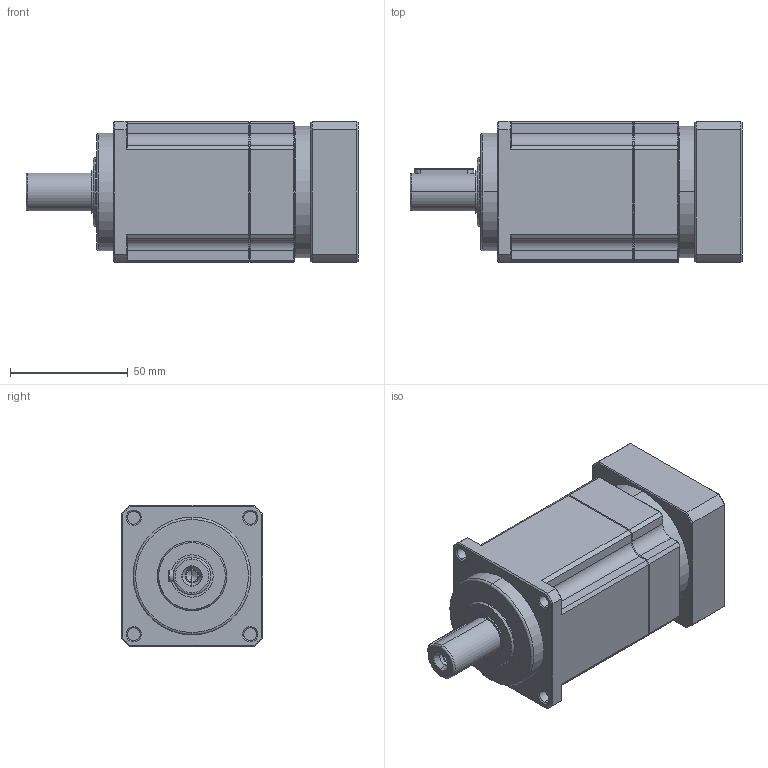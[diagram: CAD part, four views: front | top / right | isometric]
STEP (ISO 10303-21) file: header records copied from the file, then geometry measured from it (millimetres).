
FILE_DESCRIPTION (( 'STEP AP203' ), '1' );
FILE_NAME ('×°ÅäÌå1.STEP', '2020-08-12T02:59:20', ( '' ), ( '' ), 'SwSTEP 2.0', 'SolidWorks 2017', '' );
FILE_SCHEMA (( 'CONFIG_CONTROL_DESIGN' ));
Length unit declared in the file: millimetre
Products named in the file (1): 蚾饜极1
Bounding box: 141 x 60 x 60 mm (x, y, z)
Volume: 338877.3 mm3; surface area: 48826.5 mm2
Topology: 5 solids, 5 shells, 329 faces, 730 edges, 419 vertices
Faces by surface type: plane 122, cone 100, cylinder 97, torus 10
Entity records: 9205 total; most frequent: CARTESIAN_POINT 1926, DIRECTION 1568, ORIENTED_EDGE 1440, EDGE_CURVE 720, AXIS2_PLACEMENT_3D 613, VERTEX_POINT 419, EDGE_LOOP 359, LINE 342
